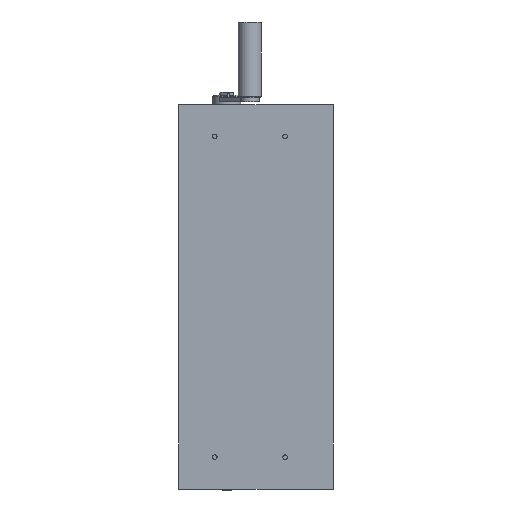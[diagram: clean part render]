
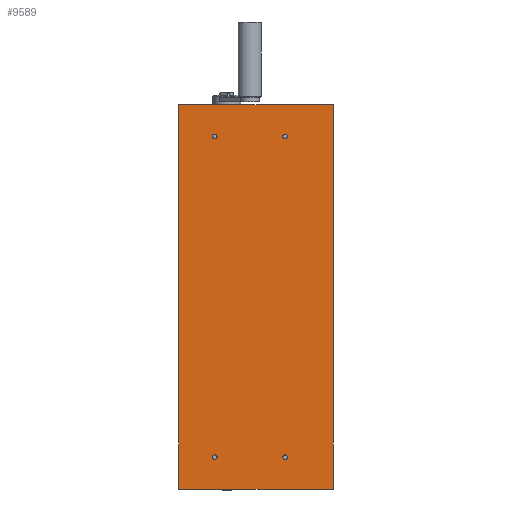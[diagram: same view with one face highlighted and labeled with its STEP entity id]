
A CAD part, front view. The second image highlights one B-rep face of the part: STEP entity #9589.
In plain terms, the highlighted planar face has unit normal (0, -1, 0).
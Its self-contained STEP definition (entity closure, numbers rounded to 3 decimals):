
#619=FACE_BOUND('',#1536,.T.);
#620=FACE_BOUND('',#1537,.T.);
#621=FACE_BOUND('',#1538,.T.);
#622=FACE_BOUND('',#1539,.T.);
#719=PLANE('',#10825);
#1006=FACE_OUTER_BOUND('',#1535,.T.);
#1535=EDGE_LOOP('',(#6650,#6651,#6652,#6653));
#1536=EDGE_LOOP('',(#6654));
#1537=EDGE_LOOP('',(#6655));
#1538=EDGE_LOOP('',(#6656));
#1539=EDGE_LOOP('',(#6657));
#2159=LINE('',#15090,#2928);
#2162=LINE('',#15095,#2931);
#2163=LINE('',#15099,#2932);
#2164=LINE('',#15100,#2933);
#2928=VECTOR('',#12016,10.);
#2931=VECTOR('',#12021,10.);
#2932=VECTOR('',#12026,10.);
#2933=VECTOR('',#12027,10.);
#3682=CIRCLE('',#10805,2.459);
#3685=CIRCLE('',#10809,2.459);
#3688=CIRCLE('',#10813,2.459);
#3691=CIRCLE('',#10817,2.459);
#4208=VERTEX_POINT('',#15035);
#4211=VERTEX_POINT('',#15043);
#4214=VERTEX_POINT('',#15051);
#4217=VERTEX_POINT('',#15059);
#4226=VERTEX_POINT('',#15087);
#4227=VERTEX_POINT('',#15089);
#4228=VERTEX_POINT('',#15093);
#4229=VERTEX_POINT('',#15098);
#5184=EDGE_CURVE('',#4208,#4208,#3682,.T.);
#5188=EDGE_CURVE('',#4211,#4211,#3685,.T.);
#5192=EDGE_CURVE('',#4214,#4214,#3688,.T.);
#5196=EDGE_CURVE('',#4217,#4217,#3691,.T.);
#5210=EDGE_CURVE('',#4227,#4226,#2159,.T.);
#5213=EDGE_CURVE('',#4226,#4228,#2162,.T.);
#5214=EDGE_CURVE('',#4228,#4229,#2163,.T.);
#5215=EDGE_CURVE('',#4229,#4227,#2164,.T.);
#6650=ORIENTED_EDGE('',*,*,#5213,.T.);
#6651=ORIENTED_EDGE('',*,*,#5214,.T.);
#6652=ORIENTED_EDGE('',*,*,#5215,.T.);
#6653=ORIENTED_EDGE('',*,*,#5210,.T.);
#6654=ORIENTED_EDGE('',*,*,#5184,.T.);
#6655=ORIENTED_EDGE('',*,*,#5188,.T.);
#6656=ORIENTED_EDGE('',*,*,#5192,.T.);
#6657=ORIENTED_EDGE('',*,*,#5196,.T.);
#9589=ADVANCED_FACE('',(#1006,#619,#620,#621,#622),#719,.T.);
#10805=AXIS2_PLACEMENT_3D('',#15037,#11964,#11965);
#10809=AXIS2_PLACEMENT_3D('',#15045,#11973,#11974);
#10813=AXIS2_PLACEMENT_3D('',#15053,#11982,#11983);
#10817=AXIS2_PLACEMENT_3D('',#15061,#11991,#11992);
#10825=AXIS2_PLACEMENT_3D('',#15097,#12024,#12025);
#11964=DIRECTION('center_axis',(0.,1.,0.));
#11965=DIRECTION('ref_axis',(1.,0.,0.));
#11973=DIRECTION('center_axis',(0.,1.,0.));
#11974=DIRECTION('ref_axis',(1.,0.,0.));
#11982=DIRECTION('center_axis',(0.,1.,0.));
#11983=DIRECTION('ref_axis',(1.,0.,0.));
#11991=DIRECTION('center_axis',(0.,1.,0.));
#11992=DIRECTION('ref_axis',(1.,0.,0.));
#12016=DIRECTION('',(-1.,0.,0.));
#12021=DIRECTION('',(0.,0.,-1.));
#12024=DIRECTION('center_axis',(0.,-1.,0.));
#12025=DIRECTION('ref_axis',(0.,0.,-1.));
#12026=DIRECTION('',(1.,0.,0.));
#12027=DIRECTION('',(0.,0.,1.));
#15035=CARTESIAN_POINT('',(28.541,-10.,171.));
#15037=CARTESIAN_POINT('Origin',(31.,-10.,171.));
#15043=CARTESIAN_POINT('',(28.541,-10.,-171.));
#15045=CARTESIAN_POINT('Origin',(31.,-10.,-171.));
#15051=CARTESIAN_POINT('',(-46.459,-10.,-171.));
#15053=CARTESIAN_POINT('Origin',(-44.,-10.,-171.));
#15059=CARTESIAN_POINT('',(-46.459,-10.,171.));
#15061=CARTESIAN_POINT('Origin',(-44.,-10.,171.));
#15087=CARTESIAN_POINT('',(-82.5,-10.,205.));
#15089=CARTESIAN_POINT('',(82.5,-10.,205.));
#15090=CARTESIAN_POINT('',(-82.5,-10.,205.));
#15093=CARTESIAN_POINT('',(-82.5,-10.,-205.));
#15095=CARTESIAN_POINT('',(-82.5,-10.,-205.));
#15097=CARTESIAN_POINT('Origin',(0.,-10.,0.));
#15098=CARTESIAN_POINT('',(82.5,-10.,-205.));
#15099=CARTESIAN_POINT('',(82.5,-10.,-205.));
#15100=CARTESIAN_POINT('',(82.5,-10.,205.));
